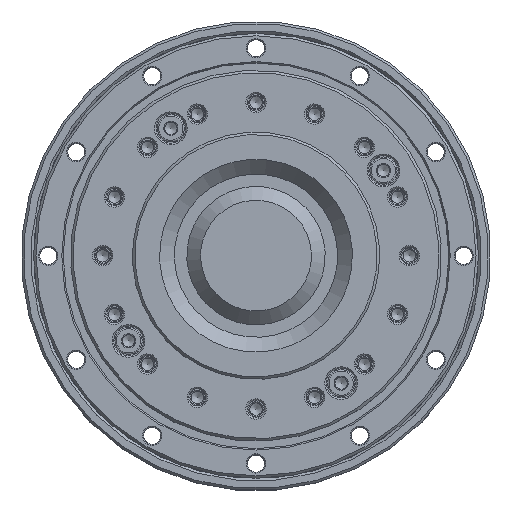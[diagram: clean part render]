
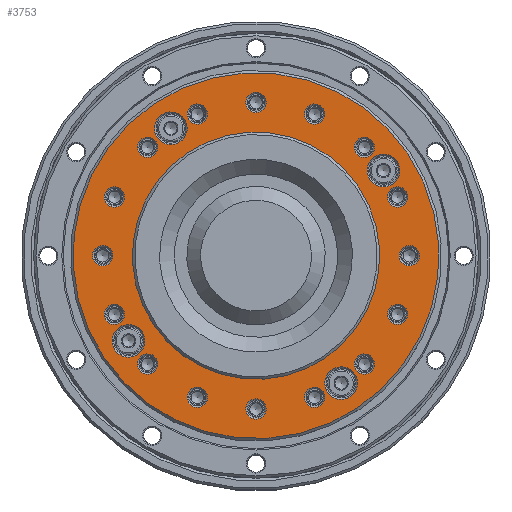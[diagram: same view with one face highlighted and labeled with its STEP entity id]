
A CAD part, top view. The second image highlights one B-rep face of the part: STEP entity #3753.
In plain terms, the highlighted planar face has unit normal (0, 0, 1).
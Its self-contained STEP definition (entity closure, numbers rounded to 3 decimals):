
#3753=ADVANCED_FACE('',(#5384,#5385,#5386,#5387,#5388,#5389,#5390,#5391,
#5392,#5393,#5394,#5395,#5396,#5397,#5398,#5399,#5400,#5401,#5402,#5403,
#5404,#5405),#4243,.T.);
#4243=PLANE('',#16276);
#5384=FACE_BOUND('',#7307,.T.);
#5385=FACE_BOUND('',#7308,.T.);
#5386=FACE_BOUND('',#7309,.T.);
#5387=FACE_BOUND('',#7310,.T.);
#5388=FACE_BOUND('',#7311,.T.);
#5389=FACE_BOUND('',#7312,.T.);
#5390=FACE_BOUND('',#7313,.T.);
#5391=FACE_BOUND('',#7314,.T.);
#5392=FACE_BOUND('',#7315,.T.);
#5393=FACE_BOUND('',#7316,.T.);
#5394=FACE_BOUND('',#7317,.T.);
#5395=FACE_BOUND('',#7318,.T.);
#5396=FACE_BOUND('',#7319,.T.);
#5397=FACE_BOUND('',#7320,.T.);
#5398=FACE_BOUND('',#7321,.T.);
#5399=FACE_BOUND('',#7322,.T.);
#5400=FACE_BOUND('',#7323,.T.);
#5401=FACE_BOUND('',#7324,.T.);
#5402=FACE_BOUND('',#7325,.T.);
#5403=FACE_BOUND('',#7326,.T.);
#5404=FACE_BOUND('',#7327,.T.);
#5405=FACE_BOUND('',#7328,.T.);
#7307=EDGE_LOOP('',(#10165));
#7308=EDGE_LOOP('',(#10166));
#7309=EDGE_LOOP('',(#10167));
#7310=EDGE_LOOP('',(#10168));
#7311=EDGE_LOOP('',(#10169));
#7312=EDGE_LOOP('',(#10170));
#7313=EDGE_LOOP('',(#10171));
#7314=EDGE_LOOP('',(#10172));
#7315=EDGE_LOOP('',(#10173));
#7316=EDGE_LOOP('',(#10174));
#7317=EDGE_LOOP('',(#10175));
#7318=EDGE_LOOP('',(#10176));
#7319=EDGE_LOOP('',(#10177));
#7320=EDGE_LOOP('',(#10178));
#7321=EDGE_LOOP('',(#10179));
#7322=EDGE_LOOP('',(#10180));
#7323=EDGE_LOOP('',(#10181));
#7324=EDGE_LOOP('',(#10182));
#7325=EDGE_LOOP('',(#10183));
#7326=EDGE_LOOP('',(#10184));
#7327=EDGE_LOOP('',(#10185));
#7328=EDGE_LOOP('',(#10186));
#10165=ORIENTED_EDGE('',*,*,#13285,.T.);
#10166=ORIENTED_EDGE('',*,*,#13286,.T.);
#10167=ORIENTED_EDGE('',*,*,#13287,.T.);
#10168=ORIENTED_EDGE('',*,*,#13288,.T.);
#10169=ORIENTED_EDGE('',*,*,#13289,.T.);
#10170=ORIENTED_EDGE('',*,*,#13290,.T.);
#10171=ORIENTED_EDGE('',*,*,#13291,.T.);
#10172=ORIENTED_EDGE('',*,*,#13292,.T.);
#10173=ORIENTED_EDGE('',*,*,#13293,.T.);
#10174=ORIENTED_EDGE('',*,*,#13294,.T.);
#10175=ORIENTED_EDGE('',*,*,#13295,.T.);
#10176=ORIENTED_EDGE('',*,*,#13296,.T.);
#10177=ORIENTED_EDGE('',*,*,#13297,.T.);
#10178=ORIENTED_EDGE('',*,*,#13298,.T.);
#10179=ORIENTED_EDGE('',*,*,#13299,.T.);
#10180=ORIENTED_EDGE('',*,*,#13300,.T.);
#10181=ORIENTED_EDGE('',*,*,#13301,.T.);
#10182=ORIENTED_EDGE('',*,*,#13302,.T.);
#10183=ORIENTED_EDGE('',*,*,#13303,.T.);
#10184=ORIENTED_EDGE('',*,*,#13304,.T.);
#10185=ORIENTED_EDGE('',*,*,#13305,.T.);
#10186=ORIENTED_EDGE('',*,*,#13284,.F.);
#11825=VERTEX_POINT('',#25824);
#11826=VERTEX_POINT('',#25827);
#11827=VERTEX_POINT('',#25829);
#11828=VERTEX_POINT('',#25831);
#11829=VERTEX_POINT('',#25833);
#11830=VERTEX_POINT('',#25835);
#11831=VERTEX_POINT('',#25837);
#11832=VERTEX_POINT('',#25839);
#11833=VERTEX_POINT('',#25841);
#11834=VERTEX_POINT('',#25843);
#11835=VERTEX_POINT('',#25845);
#11836=VERTEX_POINT('',#25847);
#11837=VERTEX_POINT('',#25849);
#11838=VERTEX_POINT('',#25851);
#11839=VERTEX_POINT('',#25853);
#11840=VERTEX_POINT('',#25855);
#11841=VERTEX_POINT('',#25857);
#11842=VERTEX_POINT('',#25859);
#11843=VERTEX_POINT('',#25861);
#11844=VERTEX_POINT('',#25863);
#11845=VERTEX_POINT('',#25865);
#11846=VERTEX_POINT('',#25867);
#13284=EDGE_CURVE('',#11825,#11825,#14430,.T.);
#13285=EDGE_CURVE('',#11826,#11826,#14431,.T.);
#13286=EDGE_CURVE('',#11827,#11827,#14432,.T.);
#13287=EDGE_CURVE('',#11828,#11828,#14433,.T.);
#13288=EDGE_CURVE('',#11829,#11829,#14434,.T.);
#13289=EDGE_CURVE('',#11830,#11830,#14435,.T.);
#13290=EDGE_CURVE('',#11831,#11831,#14436,.T.);
#13291=EDGE_CURVE('',#11832,#11832,#14437,.T.);
#13292=EDGE_CURVE('',#11833,#11833,#14438,.T.);
#13293=EDGE_CURVE('',#11834,#11834,#14439,.T.);
#13294=EDGE_CURVE('',#11835,#11835,#14440,.T.);
#13295=EDGE_CURVE('',#11836,#11836,#14441,.T.);
#13296=EDGE_CURVE('',#11837,#11837,#14442,.T.);
#13297=EDGE_CURVE('',#11838,#11838,#14443,.T.);
#13298=EDGE_CURVE('',#11839,#11839,#14444,.T.);
#13299=EDGE_CURVE('',#11840,#11840,#14445,.T.);
#13300=EDGE_CURVE('',#11841,#11841,#14446,.T.);
#13301=EDGE_CURVE('',#11842,#11842,#14447,.T.);
#13302=EDGE_CURVE('',#11843,#11843,#14448,.T.);
#13303=EDGE_CURVE('',#11844,#11844,#14449,.T.);
#13304=EDGE_CURVE('',#11845,#11845,#14450,.T.);
#13305=EDGE_CURVE('',#11846,#11846,#14451,.T.);
#14430=CIRCLE('',#16253,37.);
#14431=CIRCLE('',#16255,2.05);
#14432=CIRCLE('',#16256,2.05);
#14433=CIRCLE('',#16257,2.05);
#14434=CIRCLE('',#16258,2.05);
#14435=CIRCLE('',#16259,2.05);
#14436=CIRCLE('',#16260,2.05);
#14437=CIRCLE('',#16261,2.05);
#14438=CIRCLE('',#16262,2.05);
#14439=CIRCLE('',#16263,2.05);
#14440=CIRCLE('',#16264,2.05);
#14441=CIRCLE('',#16265,2.05);
#14442=CIRCLE('',#16266,2.05);
#14443=CIRCLE('',#16267,2.05);
#14444=CIRCLE('',#16268,2.05);
#14445=CIRCLE('',#16269,2.05);
#14446=CIRCLE('',#16270,2.05);
#14447=CIRCLE('',#16271,3.3);
#14448=CIRCLE('',#16272,3.3);
#14449=CIRCLE('',#16273,3.3);
#14450=CIRCLE('',#16274,3.3);
#14451=CIRCLE('',#16275,25.);
#16253=AXIS2_PLACEMENT_3D('',#25823,#20127,#20128);
#16255=AXIS2_PLACEMENT_3D('',#25826,#20131,#20132);
#16256=AXIS2_PLACEMENT_3D('',#25828,#20133,#20134);
#16257=AXIS2_PLACEMENT_3D('',#25830,#20135,#20136);
#16258=AXIS2_PLACEMENT_3D('',#25832,#20137,#20138);
#16259=AXIS2_PLACEMENT_3D('',#25834,#20139,#20140);
#16260=AXIS2_PLACEMENT_3D('',#25836,#20141,#20142);
#16261=AXIS2_PLACEMENT_3D('',#25838,#20143,#20144);
#16262=AXIS2_PLACEMENT_3D('',#25840,#20145,#20146);
#16263=AXIS2_PLACEMENT_3D('',#25842,#20147,#20148);
#16264=AXIS2_PLACEMENT_3D('',#25844,#20149,#20150);
#16265=AXIS2_PLACEMENT_3D('',#25846,#20151,#20152);
#16266=AXIS2_PLACEMENT_3D('',#25848,#20153,#20154);
#16267=AXIS2_PLACEMENT_3D('',#25850,#20155,#20156);
#16268=AXIS2_PLACEMENT_3D('',#25852,#20157,#20158);
#16269=AXIS2_PLACEMENT_3D('',#25854,#20159,#20160);
#16270=AXIS2_PLACEMENT_3D('',#25856,#20161,#20162);
#16271=AXIS2_PLACEMENT_3D('',#25858,#20163,#20164);
#16272=AXIS2_PLACEMENT_3D('',#25860,#20165,#20166);
#16273=AXIS2_PLACEMENT_3D('',#25862,#20167,#20168);
#16274=AXIS2_PLACEMENT_3D('',#25864,#20169,#20170);
#16275=AXIS2_PLACEMENT_3D('',#25866,#20171,#20172);
#16276=AXIS2_PLACEMENT_3D('',#25868,#20173,#20174);
#20127=DIRECTION('',(0.,0.,-1.));
#20128=DIRECTION('',(-1.,0.,0.));
#20131=DIRECTION('',(0.,0.,-1.));
#20132=DIRECTION('',(1.,0.,0.));
#20133=DIRECTION('',(0.,0.,-1.));
#20134=DIRECTION('',(1.,0.,0.));
#20135=DIRECTION('',(0.,0.,-1.));
#20136=DIRECTION('',(1.,0.,0.));
#20137=DIRECTION('',(0.,0.,-1.));
#20138=DIRECTION('',(1.,0.,0.));
#20139=DIRECTION('',(0.,0.,-1.));
#20140=DIRECTION('',(1.,0.,0.));
#20141=DIRECTION('',(0.,0.,-1.));
#20142=DIRECTION('',(1.,0.,0.));
#20143=DIRECTION('',(0.,0.,-1.));
#20144=DIRECTION('',(1.,0.,0.));
#20145=DIRECTION('',(0.,0.,-1.));
#20146=DIRECTION('',(1.,0.,0.));
#20147=DIRECTION('',(0.,0.,-1.));
#20148=DIRECTION('',(1.,0.,0.));
#20149=DIRECTION('',(0.,0.,-1.));
#20150=DIRECTION('',(1.,0.,0.));
#20151=DIRECTION('',(0.,0.,-1.));
#20152=DIRECTION('',(1.,0.,0.));
#20153=DIRECTION('',(0.,0.,-1.));
#20154=DIRECTION('',(1.,0.,0.));
#20155=DIRECTION('',(0.,0.,-1.));
#20156=DIRECTION('',(1.,0.,0.));
#20157=DIRECTION('',(0.,0.,-1.));
#20158=DIRECTION('',(1.,0.,0.));
#20159=DIRECTION('',(0.,0.,-1.));
#20160=DIRECTION('',(1.,0.,0.));
#20161=DIRECTION('',(0.,0.,-1.));
#20162=DIRECTION('',(1.,0.,0.));
#20163=DIRECTION('',(0.,0.,-1.));
#20164=DIRECTION('',(1.,0.,0.));
#20165=DIRECTION('',(0.,0.,-1.));
#20166=DIRECTION('',(1.,0.,0.));
#20167=DIRECTION('',(0.,0.,-1.));
#20168=DIRECTION('',(1.,0.,0.));
#20169=DIRECTION('',(0.,0.,-1.));
#20170=DIRECTION('',(1.,0.,0.));
#20171=DIRECTION('',(0.,0.,-1.));
#20172=DIRECTION('',(-1.,0.,0.));
#20173=DIRECTION('',(0.,0.,1.));
#20174=DIRECTION('',(1.,0.,0.));
#25823=CARTESIAN_POINT('',(0.,0.,9.));
#25824=CARTESIAN_POINT('',(-37.,0.,9.));
#25826=CARTESIAN_POINT('',(-6.048,-30.404,9.));
#25827=CARTESIAN_POINT('',(-3.998,-30.404,9.));
#25828=CARTESIAN_POINT('',(-17.223,-25.776,9.));
#25829=CARTESIAN_POINT('',(-15.173,-25.776,9.));
#25830=CARTESIAN_POINT('',(-25.776,-17.223,9.));
#25831=CARTESIAN_POINT('',(-23.726,-17.223,9.));
#25832=CARTESIAN_POINT('',(-30.404,-6.048,9.));
#25833=CARTESIAN_POINT('',(-28.354,-6.048,9.));
#25834=CARTESIAN_POINT('',(-30.404,6.048,9.));
#25835=CARTESIAN_POINT('',(-28.354,6.048,9.));
#25836=CARTESIAN_POINT('',(-25.776,17.223,9.));
#25837=CARTESIAN_POINT('',(-23.726,17.223,9.));
#25838=CARTESIAN_POINT('',(-17.223,25.776,9.));
#25839=CARTESIAN_POINT('',(-15.173,25.776,9.));
#25840=CARTESIAN_POINT('',(-6.048,30.404,9.));
#25841=CARTESIAN_POINT('',(-3.998,30.404,9.));
#25842=CARTESIAN_POINT('',(6.048,30.404,9.));
#25843=CARTESIAN_POINT('',(8.098,30.404,9.));
#25844=CARTESIAN_POINT('',(17.223,25.776,9.));
#25845=CARTESIAN_POINT('',(19.273,25.776,9.));
#25846=CARTESIAN_POINT('',(25.776,17.223,9.));
#25847=CARTESIAN_POINT('',(27.826,17.223,9.));
#25848=CARTESIAN_POINT('',(6.048,-30.404,9.));
#25849=CARTESIAN_POINT('',(8.098,-30.404,9.));
#25850=CARTESIAN_POINT('',(17.223,-25.776,9.));
#25851=CARTESIAN_POINT('',(19.273,-25.776,9.));
#25852=CARTESIAN_POINT('',(25.776,-17.223,9.));
#25853=CARTESIAN_POINT('',(27.826,-17.223,9.));
#25854=CARTESIAN_POINT('',(30.404,6.048,9.));
#25855=CARTESIAN_POINT('',(32.454,6.048,9.));
#25856=CARTESIAN_POINT('',(30.404,-6.048,9.));
#25857=CARTESIAN_POINT('',(32.454,-6.048,9.));
#25858=CARTESIAN_POINT('',(31.,0.,9.));
#25859=CARTESIAN_POINT('',(34.3,0.,9.));
#25860=CARTESIAN_POINT('',(0.,-31.,9.));
#25861=CARTESIAN_POINT('',(3.3,-31.,9.));
#25862=CARTESIAN_POINT('',(-31.,0.,9.));
#25863=CARTESIAN_POINT('',(-27.7,0.,9.));
#25864=CARTESIAN_POINT('',(0.,31.,9.));
#25865=CARTESIAN_POINT('',(3.3,31.,9.));
#25866=CARTESIAN_POINT('',(0.,0.,9.));
#25867=CARTESIAN_POINT('',(-25.,0.,9.));
#25868=CARTESIAN_POINT('',(37.,0.,9.));
